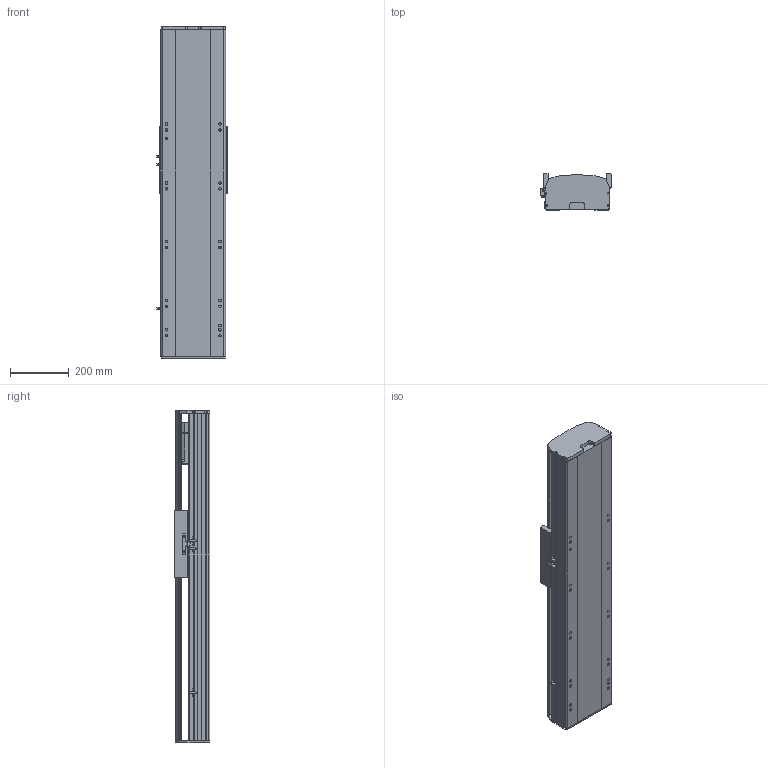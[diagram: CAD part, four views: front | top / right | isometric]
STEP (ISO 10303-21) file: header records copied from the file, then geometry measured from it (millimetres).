
FILE_DESCRIPTION (( 'STEP AP214' ), '1' );
FILE_NAME ('RTH22-XX-500-B-M75B-C4.STEP', '2025-10-24T10:07:42', ( 'Microsoft' ), ( 'Microsoft' ), 'SwSTEP 2.0', 'SolidWorks 2018', '' );
FILE_SCHEMA (( 'AUTOMOTIVE_DESIGN' ));
Length unit declared in the file: millimetre
Products named in the file (9): N_RTH22-B008萇儂啣^RTH22-XX-XX-B-M75B-C4; N_OMRON EE-SX672 传感器^RTH22-XX-XX-B-M75B-C4; N_750W萇儂^RTH22-XX-XX-B-M75B-C4; RTH22-XX-500-B-M75B-C4; N_RTH22-B-011B菁釱^RTH22-XX-XX-B-M75B-C4; N_RTH22-GY-001耜裔^RTH22-XX-XX-B-M75B-C4; N_RTH22-E-004-SFS25賑釱^RTH22-XX-XX-B-M75B-C4; N_RTH22-B-007B奻裔^RTH22-XX-XX-B-M75B-C4; N_RTH22-GY-013外置感应片^RTH22-XX-XX-B-M75B-C4
Assembly tree (10 placements, depth 2):
  RTH22-XX-500-B-M75B-C4
    N_RTH22-B-011B菁釱^RTH22-XX-XX-B-M75B-C4
    N_RTH22-GY-001耜裔^RTH22-XX-XX-B-M75B-C4
    N_750W萇儂^RTH22-XX-XX-B-M75B-C4
    N_RTH22-B008萇儂啣^RTH22-XX-XX-B-M75B-C4
    N_RTH22-B-007B奻裔^RTH22-XX-XX-B-M75B-C4
    N_OMRON EE-SX672 传感器^RTH22-XX-XX-B-M75B-C4  x3
    N_RTH22-GY-013外置感应片^RTH22-XX-XX-B-M75B-C4
    N_RTH22-E-004-SFS25賑釱^RTH22-XX-XX-B-M75B-C4
Bounding box: 238.5 x 122 x 1130 mm (x, y, z)
Volume: 16111389.6 mm3; surface area: 1680998.2 mm2
Topology: 10 solids, 10 shells, 1497 faces, 4100 edges, 2653 vertices
Faces by surface type: plane 750, cylinder 418, bspline 279, cone 50
Entity records: 36775 total; most frequent: CARTESIAN_POINT 11549, ORIENTED_EDGE 5192, DIRECTION 4834, EDGE_CURVE 2596, VERTEX_POINT 1689, LINE 1614, VECTOR 1614, AXIS2_PLACEMENT_3D 1610
